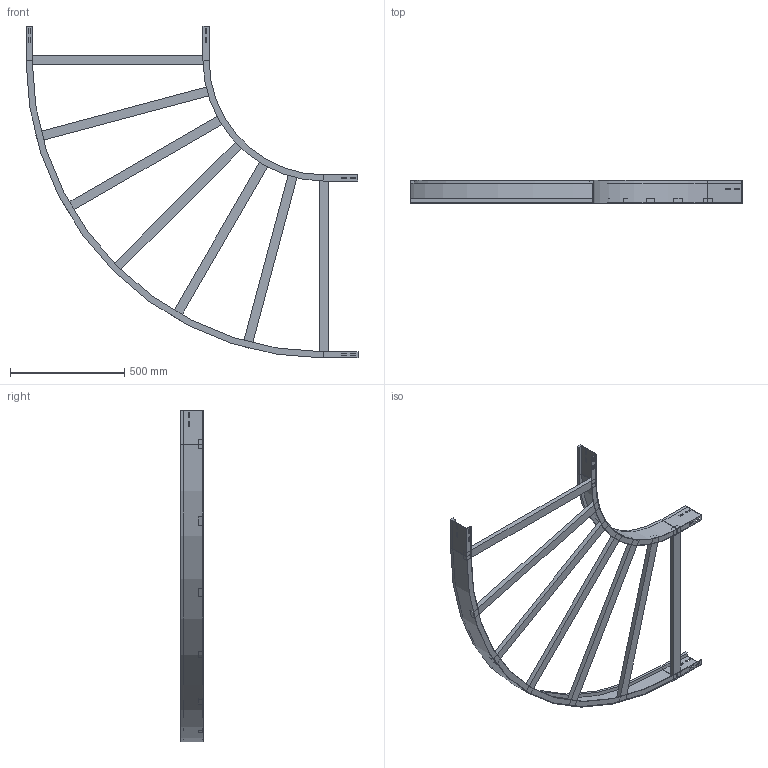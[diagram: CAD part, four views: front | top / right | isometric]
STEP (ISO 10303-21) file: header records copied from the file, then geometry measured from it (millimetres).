
FILE_DESCRIPTION (( 'STEP AP214' ), '1' );
FILE_NAME ('10B5D800.step', '2025-02-21T15:22:36', ( '' ), ( '' ), 'SwSTEP 2.0', 'SolidWorks 2023', '' );
FILE_SCHEMA (( 'AUTOMOTIVE_DESIGN' ));
Length unit declared in the file: millimetre
Products named in the file (4): TRAVERSINO_800; 10B5D800; A2_LONGH.ESTERNO 90°_H100_R500+800; A2_LONGH.INTERNO 90°_H100_R500
Assembly tree (9 placements, depth 2):
  10B5D800
    A2_LONGH.INTERNO 90°_H100_R500
    A2_LONGH.ESTERNO 90°_H100_R500+800
    TRAVERSINO_800  x7
Bounding box: 1450 x 100 x 1450 mm (x, y, z)
Volume: 6023317.6 mm3; surface area: 1664493.9 mm2
Topology: 9 solids, 9 shells, 158 faces, 388 edges, 248 vertices
Faces by surface type: plane 150, cylinder 8
Entity records: 3853 total; most frequent: CARTESIAN_POINT 650, ORIENTED_EDGE 632, DIRECTION 600, EDGE_CURVE 316, LINE 300, VECTOR 300, VERTEX_POINT 200, EDGE_LOOP 154
